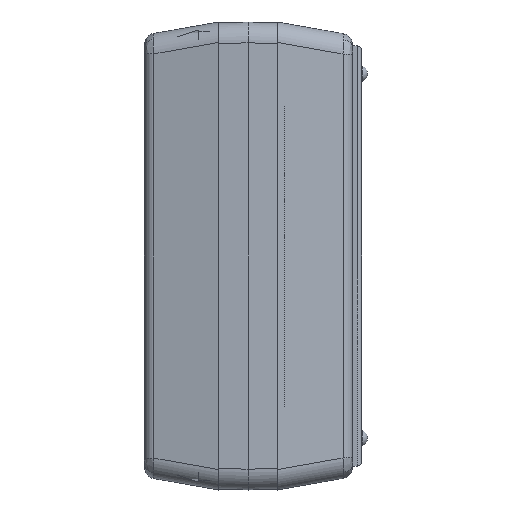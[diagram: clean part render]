
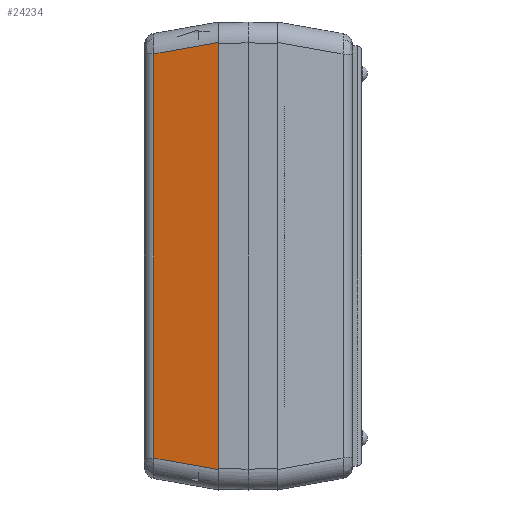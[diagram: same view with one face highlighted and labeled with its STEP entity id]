
A CAD part, left-side view. The second image highlights one B-rep face of the part: STEP entity #24234.
In plain terms, the highlighted planar face has unit normal (-0.985, 0.174, 0).
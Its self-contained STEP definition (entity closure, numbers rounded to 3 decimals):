
#2536 = CARTESIAN_POINT ( 'NONE',  ( -92.825, 14.034, -43.794 ) ) ;
#3142 = DIRECTION ( 'NONE',  ( -0.174, -0.985, 0. ) ) ;
#3982 = ORIENTED_EDGE ( 'NONE', *, *, #13804, .T. ) ;
#5290 = EDGE_CURVE ( 'NONE', #29050, #23396, #26395, .T. ) ;
#6026 = LINE ( 'NONE', #8077, #17835 ) ;
#6093 = VECTOR ( 'NONE', #17765, 1000. ) ;
#6688 = CARTESIAN_POINT ( 'NONE',  ( -92.825, 14.034, -47.861 ) ) ;
#7280 = VECTOR ( 'NONE', #7719, 1000. ) ;
#7719 = DIRECTION ( 'NONE',  ( -0.171, -0.97, -0.171 ) ) ;
#8077 = CARTESIAN_POINT ( 'NONE',  ( -92.462, 16.097, 43.43 ) ) ;
#8518 = VECTOR ( 'NONE', #22995, 1000. ) ;
#9241 = FACE_OUTER_BOUND ( 'NONE', #25967, .T. ) ;
#11985 = PLANE ( 'NONE',  #16460 ) ;
#13804 = EDGE_CURVE ( 'NONE', #23396, #27496, #6026, .T. ) ;
#14307 = CARTESIAN_POINT ( 'NONE',  ( -95.43, -0.736, -46.398 ) ) ;
#15178 = CARTESIAN_POINT ( 'NONE',  ( -95.3, 0., -46.268 ) ) ;
#16460 = AXIS2_PLACEMENT_3D ( 'NONE', #27708, #16472, #3142 ) ;
#16469 = EDGE_CURVE ( 'NONE', #27496, #22563, #17891, .T. ) ;
#16472 = DIRECTION ( 'NONE',  ( -0.985, 0.174, 0. ) ) ;
#17765 = DIRECTION ( 'NONE',  ( 0., 0., -1. ) ) ;
#17835 = VECTOR ( 'NONE', #21418, 1000. ) ;
#17891 = LINE ( 'NONE', #6688, #6093 ) ;
#19129 = LINE ( 'NONE', #14307, #7280 ) ;
#19878 = CARTESIAN_POINT ( 'NONE',  ( -92.825, 14.034, 43.794 ) ) ;
#20006 = ORIENTED_EDGE ( 'NONE', *, *, #20615, .T. ) ;
#20615 = EDGE_CURVE ( 'NONE', #22563, #29050, #19129, .T. ) ;
#20744 = CARTESIAN_POINT ( 'NONE',  ( -95.3, 0., -50.7 ) ) ;
#21418 = DIRECTION ( 'NONE',  ( 0.171, 0.97, -0.171 ) ) ;
#22563 = VERTEX_POINT ( 'NONE', #2536 ) ;
#22666 = ORIENTED_EDGE ( 'NONE', *, *, #16469, .T. ) ;
#22995 = DIRECTION ( 'NONE',  ( 0., 0., 1. ) ) ;
#23396 = VERTEX_POINT ( 'NONE', #28746 ) ;
#24234 = ADVANCED_FACE ( 'NONE', ( #9241 ), #11985, .T. ) ;
#25967 = EDGE_LOOP ( 'NONE', ( #28723, #3982, #22666, #20006 ) ) ;
#26395 = LINE ( 'NONE', #20744, #8518 ) ;
#27496 = VERTEX_POINT ( 'NONE', #19878 ) ;
#27708 = CARTESIAN_POINT ( 'NONE',  ( -95.3, 0., -50.7 ) ) ;
#28723 = ORIENTED_EDGE ( 'NONE', *, *, #5290, .T. ) ;
#28746 = CARTESIAN_POINT ( 'NONE',  ( -95.3, 0., 46.268 ) ) ;
#29050 = VERTEX_POINT ( 'NONE', #15178 ) ;
